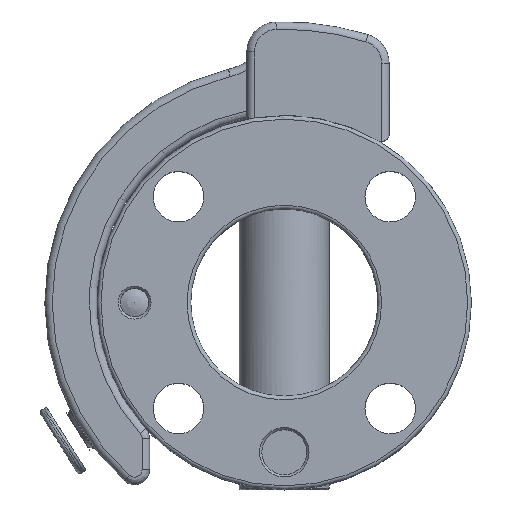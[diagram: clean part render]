
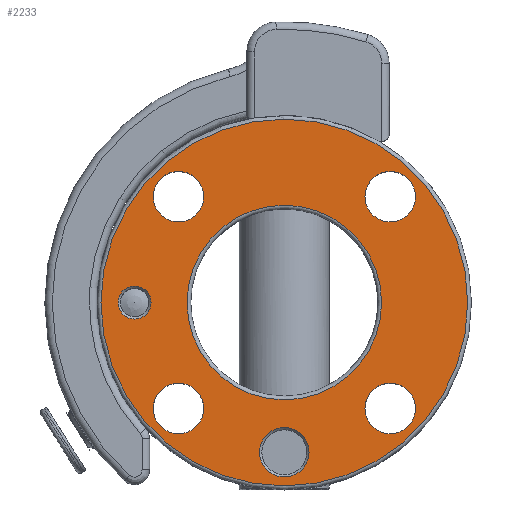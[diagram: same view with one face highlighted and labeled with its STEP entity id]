
A CAD part, top view. The second image highlights one B-rep face of the part: STEP entity #2233.
In plain terms, the highlighted planar face has unit normal (0, 0, 1).
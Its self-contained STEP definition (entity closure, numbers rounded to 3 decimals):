
#23=FACE_BOUND('',#567,.T.);
#24=FACE_BOUND('',#568,.T.);
#25=FACE_BOUND('',#569,.T.);
#26=FACE_BOUND('',#570,.T.);
#27=FACE_BOUND('',#571,.T.);
#28=FACE_BOUND('',#572,.T.);
#29=FACE_BOUND('',#573,.T.);
#81=PLANE('',#2510);
#436=FACE_OUTER_BOUND('',#566,.T.);
#566=EDGE_LOOP('',(#1835,#1836));
#567=EDGE_LOOP('',(#1837));
#568=EDGE_LOOP('',(#1838));
#569=EDGE_LOOP('',(#1839));
#570=EDGE_LOOP('',(#1840));
#571=EDGE_LOOP('',(#1841));
#572=EDGE_LOOP('',(#1842));
#573=EDGE_LOOP('',(#1843));
#755=CIRCLE('',#2507,13.);
#758=CIRCLE('',#2511,24.5);
#759=CIRCLE('',#2512,24.5);
#760=CIRCLE('',#2513,3.3);
#761=CIRCLE('',#2514,3.375);
#762=CIRCLE('',#2515,3.375);
#763=CIRCLE('',#2516,3.375);
#764=CIRCLE('',#2517,3.375);
#765=CIRCLE('',#2518,2.2);
#1010=VERTEX_POINT('',#4220);
#1012=VERTEX_POINT('',#4226);
#1013=VERTEX_POINT('',#4227);
#1014=VERTEX_POINT('',#4230);
#1015=VERTEX_POINT('',#4232);
#1016=VERTEX_POINT('',#4234);
#1017=VERTEX_POINT('',#4236);
#1018=VERTEX_POINT('',#4238);
#1019=VERTEX_POINT('',#4240);
#1303=EDGE_CURVE('',#1010,#1010,#755,.T.);
#1306=EDGE_CURVE('',#1012,#1013,#758,.T.);
#1307=EDGE_CURVE('',#1013,#1012,#759,.T.);
#1308=EDGE_CURVE('',#1014,#1014,#760,.T.);
#1309=EDGE_CURVE('',#1015,#1015,#761,.T.);
#1310=EDGE_CURVE('',#1016,#1016,#762,.T.);
#1311=EDGE_CURVE('',#1017,#1017,#763,.T.);
#1312=EDGE_CURVE('',#1018,#1018,#764,.T.);
#1313=EDGE_CURVE('',#1019,#1019,#765,.T.);
#1835=ORIENTED_EDGE('',*,*,#1306,.F.);
#1836=ORIENTED_EDGE('',*,*,#1307,.F.);
#1837=ORIENTED_EDGE('',*,*,#1308,.F.);
#1838=ORIENTED_EDGE('',*,*,#1309,.T.);
#1839=ORIENTED_EDGE('',*,*,#1310,.T.);
#1840=ORIENTED_EDGE('',*,*,#1311,.T.);
#1841=ORIENTED_EDGE('',*,*,#1312,.T.);
#1842=ORIENTED_EDGE('',*,*,#1313,.F.);
#1843=ORIENTED_EDGE('',*,*,#1303,.F.);
#2233=ADVANCED_FACE('',(#436,#23,#24,#25,#26,#27,#28,#29),#81,.T.);
#2507=AXIS2_PLACEMENT_3D('',#4221,#3081,#3082);
#2510=AXIS2_PLACEMENT_3D('',#4225,#3087,#3088);
#2511=AXIS2_PLACEMENT_3D('',#4228,#3089,#3090);
#2512=AXIS2_PLACEMENT_3D('',#4229,#3091,#3092);
#2513=AXIS2_PLACEMENT_3D('',#4231,#3093,#3094);
#2514=AXIS2_PLACEMENT_3D('',#4233,#3095,#3096);
#2515=AXIS2_PLACEMENT_3D('',#4235,#3097,#3098);
#2516=AXIS2_PLACEMENT_3D('',#4237,#3099,#3100);
#2517=AXIS2_PLACEMENT_3D('',#4239,#3101,#3102);
#2518=AXIS2_PLACEMENT_3D('',#4241,#3103,#3104);
#3081=DIRECTION('center_axis',(0.,0.,1.));
#3082=DIRECTION('ref_axis',(-1.,0.,0.));
#3087=DIRECTION('center_axis',(0.,0.,1.));
#3088=DIRECTION('ref_axis',(1.,0.,0.));
#3089=DIRECTION('center_axis',(0.,0.,-1.));
#3090=DIRECTION('ref_axis',(-1.,0.,0.));
#3091=DIRECTION('center_axis',(0.,0.,-1.));
#3092=DIRECTION('ref_axis',(-1.,0.,0.));
#3093=DIRECTION('center_axis',(0.,0.,1.));
#3094=DIRECTION('ref_axis',(-1.,0.,0.));
#3095=DIRECTION('center_axis',(0.,0.,-1.));
#3096=DIRECTION('ref_axis',(-1.,0.,0.));
#3097=DIRECTION('center_axis',(0.,0.,-1.));
#3098=DIRECTION('ref_axis',(-1.,0.,0.));
#3099=DIRECTION('center_axis',(0.,0.,-1.));
#3100=DIRECTION('ref_axis',(-1.,0.,0.));
#3101=DIRECTION('center_axis',(0.,0.,-1.));
#3102=DIRECTION('ref_axis',(-1.,0.,0.));
#3103=DIRECTION('center_axis',(0.,0.,1.));
#3104=DIRECTION('ref_axis',(-1.,0.,0.));
#4220=CARTESIAN_POINT('',(13.,0.,22.));
#4221=CARTESIAN_POINT('Origin',(0.,0.,22.));
#4225=CARTESIAN_POINT('Origin',(0.,0.,22.));
#4226=CARTESIAN_POINT('',(24.5,0.,22.));
#4227=CARTESIAN_POINT('',(-24.5,0.,22.));
#4228=CARTESIAN_POINT('Origin',(0.,0.,22.));
#4229=CARTESIAN_POINT('Origin',(0.,0.,22.));
#4230=CARTESIAN_POINT('',(3.3,-20.,22.));
#4231=CARTESIAN_POINT('Origin',(0.,-20.,22.));
#4232=CARTESIAN_POINT('',(-10.767,-14.142,22.));
#4233=CARTESIAN_POINT('Origin',(-14.142,-14.142,22.));
#4234=CARTESIAN_POINT('',(17.517,14.142,22.));
#4235=CARTESIAN_POINT('Origin',(14.142,14.142,22.));
#4236=CARTESIAN_POINT('',(-10.767,14.142,22.));
#4237=CARTESIAN_POINT('Origin',(-14.142,14.142,22.));
#4238=CARTESIAN_POINT('',(17.517,-14.142,22.));
#4239=CARTESIAN_POINT('Origin',(14.142,-14.142,22.));
#4240=CARTESIAN_POINT('',(-17.8,0.,22.));
#4241=CARTESIAN_POINT('Origin',(-20.,0.,22.));
